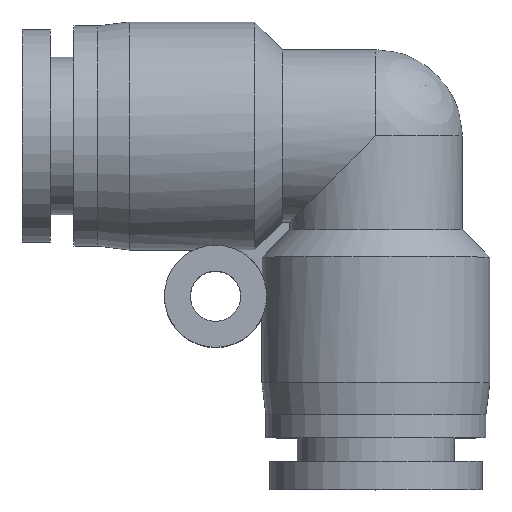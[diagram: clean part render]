
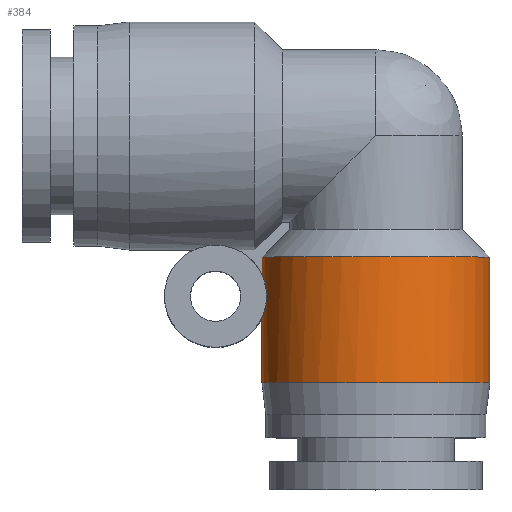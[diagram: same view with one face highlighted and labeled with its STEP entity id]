
A CAD part, top view. The second image highlights one B-rep face of the part: STEP entity #384.
In plain terms, the highlighted cylindrical face has radius 7.25 mm (diameter 14.5 mm), a full revolution.
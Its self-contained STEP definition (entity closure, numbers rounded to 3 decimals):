
#83=CARTESIAN_POINT('',(-7.233,-7.7,-0.5));
#84=VERTEX_POINT('',#83);
#98=CARTESIAN_POINT('',(-7.233,-8.874,-0.5));
#99=VERTEX_POINT('',#98);
#100=CARTESIAN_POINT('',(-7.233,-8.874,-0.5));
#101=DIRECTION('',(0.0,1.0,0.0));
#102=VECTOR('',#101,1.174);
#103=LINE('',#100,#102);
#104=EDGE_CURVE('',#99,#84,#103,.T.);
#193=CARTESIAN_POINT('',(-7.233,-8.874,0.5));
#194=VERTEX_POINT('',#193);
#202=CARTESIAN_POINT('',(-7.233,-7.7,0.5));
#203=VERTEX_POINT('',#202);
#204=CARTESIAN_POINT('',(-7.233,-7.7,0.5));
#205=DIRECTION('',(0.0,-1.0,0.0));
#206=VECTOR('',#205,1.174);
#207=LINE('',#204,#206);
#208=EDGE_CURVE('',#203,#194,#207,.T.);
#254=CARTESIAN_POINT('',(-7.25,-11.564,0.0));
#255=VERTEX_POINT('',#254);
#256=CARTESIAN_POINT('',(-7.25,-11.564,0.0));
#257=CARTESIAN_POINT('',(-7.25,-11.564,-0.337));
#258=CARTESIAN_POINT('',(-7.224,-11.512,-0.699));
#259=CARTESIAN_POINT('',(-7.154,-11.334,-1.189));
#260=CARTESIAN_POINT('',(-7.126,-11.259,-1.344));
#261=CARTESIAN_POINT('',(-7.068,-11.072,-1.621));
#262=CARTESIAN_POINT('',(-7.038,-10.962,-1.745));
#263=CARTESIAN_POINT('',(-6.994,-10.743,-1.909));
#264=CARTESIAN_POINT('',(-6.978,-10.641,-1.967));
#265=CARTESIAN_POINT('',(-6.956,-10.424,-2.045));
#266=CARTESIAN_POINT('',(-6.95,-10.308,-2.064));
#267=CARTESIAN_POINT('',(-6.95,-10.092,-2.064));
#268=CARTESIAN_POINT('',(-6.956,-9.976,-2.045));
#269=CARTESIAN_POINT('',(-6.978,-9.759,-1.967));
#270=CARTESIAN_POINT('',(-6.994,-9.657,-1.909));
#271=CARTESIAN_POINT('',(-7.038,-9.438,-1.745));
#272=CARTESIAN_POINT('',(-7.068,-9.328,-1.621));
#273=CARTESIAN_POINT('',(-7.126,-9.141,-1.344));
#274=CARTESIAN_POINT('',(-7.154,-9.066,-1.189));
#275=CARTESIAN_POINT('',(-7.201,-8.945,-0.857));
#276=CARTESIAN_POINT('',(-7.22,-8.902,-0.679));
#277=CARTESIAN_POINT('',(-7.233,-8.874,-0.5));
#278=B_SPLINE_CURVE_WITH_KNOTS('',3,(#256,#257,#258,#259,#260,#261,#262,#263,#264,#265,#266,#267,#268,#269,#270,#271,#272,#273,#274,#275,#276,#277),.UNSPECIFIED.,.F.,.U.,(4,2,2,2,2,2,2,2,2,2,4),(0.0,0.101,0.152,0.202,0.235,0.267,0.3,0.332,0.382,0.433,0.485),.UNSPECIFIED.);
#279=EDGE_CURVE('',#255,#99,#278,.T.);
#281=CARTESIAN_POINT('',(-7.233,-8.874,0.5));
#282=CARTESIAN_POINT('',(-7.22,-8.902,0.679));
#283=CARTESIAN_POINT('',(-7.201,-8.945,0.857));
#284=CARTESIAN_POINT('',(-7.154,-9.066,1.189));
#285=CARTESIAN_POINT('',(-7.126,-9.141,1.344));
#286=CARTESIAN_POINT('',(-7.068,-9.328,1.621));
#287=CARTESIAN_POINT('',(-7.038,-9.438,1.745));
#288=CARTESIAN_POINT('',(-6.994,-9.657,1.909));
#289=CARTESIAN_POINT('',(-6.978,-9.759,1.967));
#290=CARTESIAN_POINT('',(-6.956,-9.976,2.045));
#291=CARTESIAN_POINT('',(-6.95,-10.092,2.064));
#292=CARTESIAN_POINT('',(-6.95,-10.308,2.064));
#293=CARTESIAN_POINT('',(-6.956,-10.424,2.045));
#294=CARTESIAN_POINT('',(-6.978,-10.641,1.967));
#295=CARTESIAN_POINT('',(-6.994,-10.743,1.909));
#296=CARTESIAN_POINT('',(-7.038,-10.962,1.745));
#297=CARTESIAN_POINT('',(-7.068,-11.072,1.621));
#298=CARTESIAN_POINT('',(-7.126,-11.259,1.344));
#299=CARTESIAN_POINT('',(-7.154,-11.334,1.189));
#300=CARTESIAN_POINT('',(-7.224,-11.512,0.699));
#301=CARTESIAN_POINT('',(-7.25,-11.564,0.337));
#302=CARTESIAN_POINT('',(-7.25,-11.564,0.));
#303=B_SPLINE_CURVE_WITH_KNOTS('',3,(#281,#282,#283,#284,#285,#286,#287,#288,#289,#290,#291,#292,#293,#294,#295,#296,#297,#298,#299,#300,#301,#302),.UNSPECIFIED.,.F.,.U.,(4,2,2,2,2,2,2,2,2,2,4),(0.583,0.635,0.686,0.736,0.769,0.801,0.834,0.866,0.917,0.967,1.068),.UNSPECIFIED.);
#304=EDGE_CURVE('',#194,#255,#303,.T.);
#355=CARTESIAN_POINT('',(0.,-11.7,0.0));
#356=DIRECTION('',(0.,1.0,0.0));
#357=DIRECTION('',(-1.0,0.0,0.0));
#358=AXIS2_PLACEMENT_3D('',#355,#356,#357);
#359=CYLINDRICAL_SURFACE('',#358,7.25);
#360=CARTESIAN_POINT('',(-7.25,-15.7,0.0));
#361=VERTEX_POINT('',#360);
#362=CARTESIAN_POINT('',(0.,-15.7,0.0));
#363=DIRECTION('',(0.0,1.0,0.0));
#364=DIRECTION('',(-1.0,0.0,0.0));
#365=AXIS2_PLACEMENT_3D('',#362,#363,#364);
#366=CIRCLE('',#365,7.25);
#367=EDGE_CURVE('',#361,#361,#366,.T.);
#368=ORIENTED_EDGE('',*,*,#367,.T.);
#369=EDGE_LOOP('',(#368));
#370=FACE_OUTER_BOUND('',#369,.T.);
#371=ORIENTED_EDGE('',*,*,#104,.T.);
#372=CARTESIAN_POINT('',(0.,-7.7,0.0));
#373=DIRECTION('',(0.0,1.0,0.0));
#374=DIRECTION('',(-1.0,0.0,0.0));
#375=AXIS2_PLACEMENT_3D('',#372,#373,#374);
#376=CIRCLE('',#375,7.25);
#377=EDGE_CURVE('',#203,#84,#376,.T.);
#378=ORIENTED_EDGE('',*,*,#377,.F.);
#379=ORIENTED_EDGE('',*,*,#208,.T.);
#380=ORIENTED_EDGE('',*,*,#304,.T.);
#381=ORIENTED_EDGE('',*,*,#279,.T.);
#382=EDGE_LOOP('',(#371,#378,#379,#380,#381));
#383=FACE_BOUND('',#382,.T.);
#384=ADVANCED_FACE('',(#370,#383),#359,.T.);
